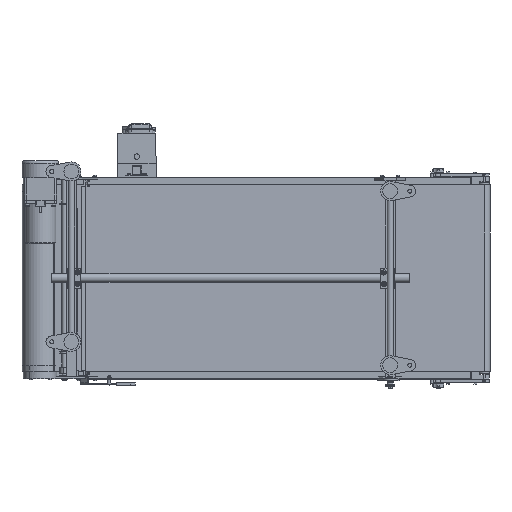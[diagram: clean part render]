
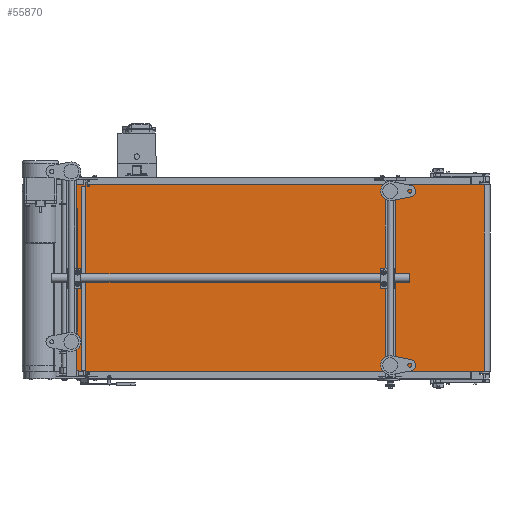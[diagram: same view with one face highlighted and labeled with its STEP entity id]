
A CAD part, front view. The second image highlights one B-rep face of the part: STEP entity #55870.
In plain terms, the highlighted planar face has unit normal (0.009, -1, 0).
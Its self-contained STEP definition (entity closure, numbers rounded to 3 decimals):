
#3293 = LINE ( 'NONE', #40547, #71760 ) ;
#4321 = VERTEX_POINT ( 'NONE', #68151 ) ;
#5189 = VECTOR ( 'NONE', #21410, 1000. ) ;
#11023 = VECTOR ( 'NONE', #14869, 1000. ) ;
#13452 = CARTESIAN_POINT ( 'NONE',  ( 150.47, -44.938, -300. ) ) ;
#14609 = CARTESIAN_POINT ( 'NONE',  ( 1483.164, -32.999, 300. ) ) ;
#14869 = DIRECTION ( 'NONE',  ( 1., 0.009, 0. ) ) ;
#15274 = VERTEX_POINT ( 'NONE', #50874 ) ;
#16817 = ORIENTED_EDGE ( 'NONE', *, *, #57347, .T. ) ;
#17802 = AXIS2_PLACEMENT_3D ( 'NONE', #14609, #20668, #39003 ) ;
#18617 = LINE ( 'NONE', #32349, #11023 ) ;
#19224 = CARTESIAN_POINT ( 'NONE',  ( 1483.164, -32.999, 300. ) ) ;
#20668 = DIRECTION ( 'NONE',  ( -0.009, 1., 0. ) ) ;
#20998 = ORIENTED_EDGE ( 'NONE', *, *, #57488, .T. ) ;
#21410 = DIRECTION ( 'NONE',  ( 1., 0.009, 0. ) ) ;
#30189 = EDGE_CURVE ( 'NONE', #15274, #4321, #46218, .T. ) ;
#32349 = CARTESIAN_POINT ( 'NONE',  ( 1483.164, -32.999, 300. ) ) ;
#36655 = FACE_OUTER_BOUND ( 'NONE', #72839, .T. ) ;
#38064 = DIRECTION ( 'NONE',  ( 0., 0., -1. ) ) ;
#39003 = DIRECTION ( 'NONE',  ( -1., -0.009, 0. ) ) ;
#40547 = CARTESIAN_POINT ( 'NONE',  ( 150.47, -44.938, 300. ) ) ;
#40595 = ORIENTED_EDGE ( 'NONE', *, *, #30189, .F. ) ;
#44068 = LINE ( 'NONE', #69562, #5189 ) ;
#46218 = LINE ( 'NONE', #19224, #70047 ) ;
#50874 = CARTESIAN_POINT ( 'NONE',  ( 1483.164, -32.999, 300. ) ) ;
#54179 = CARTESIAN_POINT ( 'NONE',  ( 150.47, -44.938, 300. ) ) ;
#55870 = ADVANCED_FACE ( 'NONE', ( #36655 ), #75759, .F. ) ;
#55886 = EDGE_CURVE ( 'NONE', #65272, #15274, #18617, .T. ) ;
#57347 = EDGE_CURVE ( 'NONE', #75758, #4321, #44068, .T. ) ;
#57488 = EDGE_CURVE ( 'NONE', #65272, #75758, #3293, .T. ) ;
#58654 = DIRECTION ( 'NONE',  ( 0., 0., -1. ) ) ;
#65272 = VERTEX_POINT ( 'NONE', #54179 ) ;
#68151 = CARTESIAN_POINT ( 'NONE',  ( 1483.164, -32.999, -300. ) ) ;
#69562 = CARTESIAN_POINT ( 'NONE',  ( 1483.164, -32.999, -300. ) ) ;
#70047 = VECTOR ( 'NONE', #38064, 1000. ) ;
#71760 = VECTOR ( 'NONE', #58654, 1000. ) ;
#72839 = EDGE_LOOP ( 'NONE', ( #16817, #40595, #76534, #20998 ) ) ;
#75758 = VERTEX_POINT ( 'NONE', #13452 ) ;
#75759 = PLANE ( 'NONE',  #17802 ) ;
#76534 = ORIENTED_EDGE ( 'NONE', *, *, #55886, .F. ) ;
